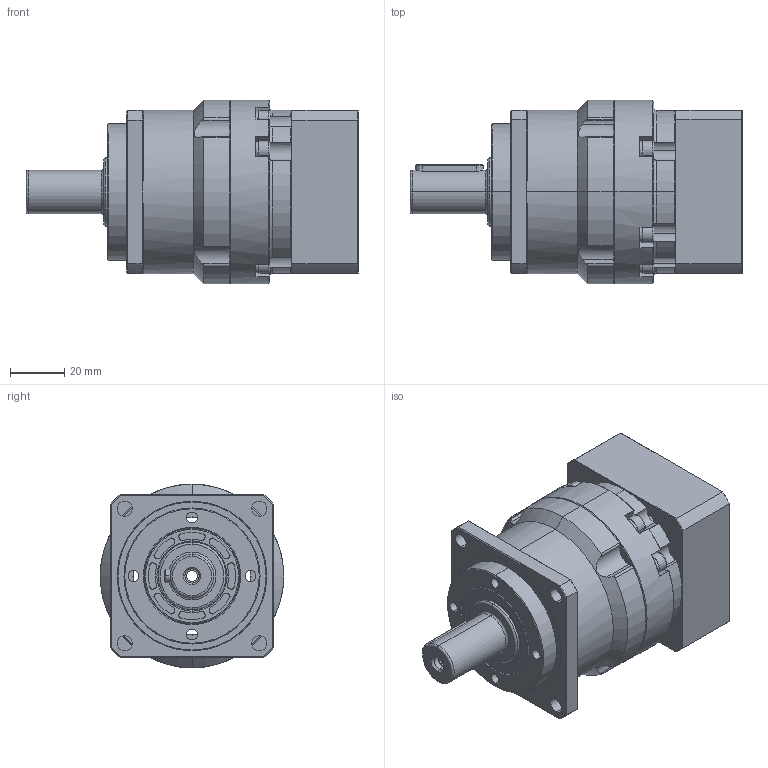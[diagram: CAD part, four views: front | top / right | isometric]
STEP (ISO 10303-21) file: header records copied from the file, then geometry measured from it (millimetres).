
FILE_DESCRIPTION (( 'STEP AP203' ), '1' );
FILE_NAME ('AKS60-5-50-14-35-M5-70.STEP', '2020-08-11T07:20:57', ( '微软用户' ), ( '微软中国' ), 'SwSTEP 2.0', 'SolidWorks 2008', '' );
FILE_SCHEMA (( 'CONFIG_CONTROL_DESIGN' ));
Length unit declared in the file: millimetre
Products named in the file (1): AKS60-5-50-14-35-M5-70
Bounding box: 122 x 67.5 x 67.5 mm (x, y, z)
Surface area: 46145.6 mm2 (no closed solid volume)
Topology: 0 solids, 36 shells, 595 faces, 1766 edges, 1170 vertices
Faces by surface type: cylinder 224, plane 198, cone 134, torus 39
Entity records: 20440 total; most frequent: CARTESIAN_POINT 4339, DIRECTION 3590, ORIENTED_EDGE 3014, EDGE_CURVE 1746, AXIS2_PLACEMENT_3D 1401, VERTEX_POINT 1170, CIRCLE 805, LINE 788
